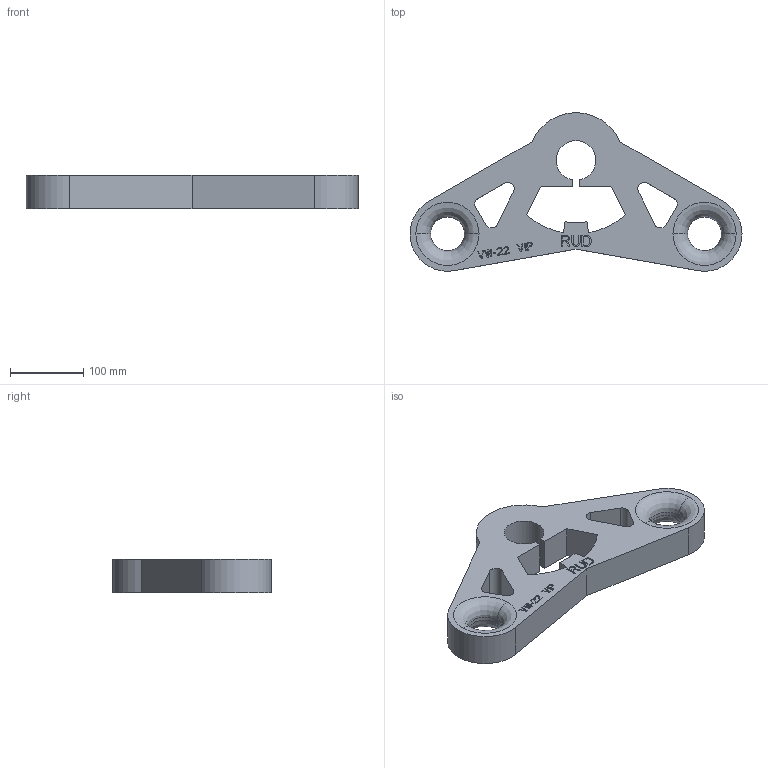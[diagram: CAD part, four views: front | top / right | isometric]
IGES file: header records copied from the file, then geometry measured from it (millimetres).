
Start section:  PTC IGES file: 001-m34962-p-1.igs
Global section: file name: 001-m34962-p-1.igs; native system: Pro/ENGINEER by Parametric Technology Corporation; preprocessor: 2011490; author: anja.joas; organization: Unknown; date: 20190124.071941; units: millimetre
Bounding box: 452 x 216 x 45 mm (x, y, z)
Volume: 1958933.5 mm3; surface area: 187342 mm2
Topology: 1 solids, 1 shells, 252 faces, 700 edges, 464 vertices
Faces by surface type: bspline 227, revolution 25
